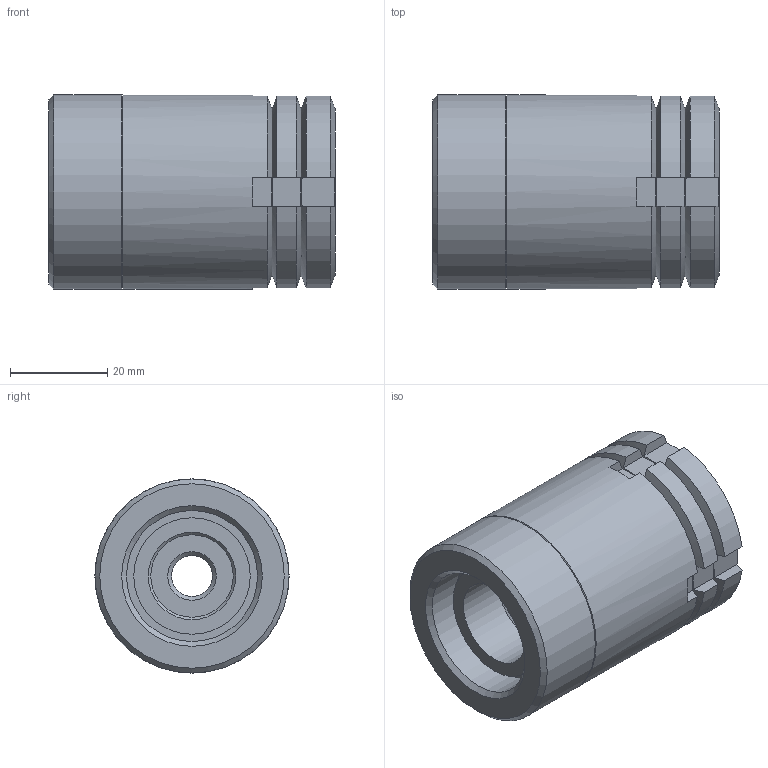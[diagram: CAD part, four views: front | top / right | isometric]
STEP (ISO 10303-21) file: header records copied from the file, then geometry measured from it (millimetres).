
FILE_DESCRIPTION( ( 'STEP AP203' ), '1' );
FILE_NAME( 'C:/Temp/Ganter_Step_05_03_2020/data/3_2/gn360/gn360_st/Levelling set GN 360-40-M10-69-B-ST (0-0).stp', '2020-03-13T05:41:52', ( 'License CC BY-ND 4.0' ), ( 'CADENAS' ), ' ', 'PARTsolutions', ' ' );
FILE_SCHEMA( ( 'CONFIG_CONTROL_DESIGN' ) );
Length unit declared in the file: millimetre
Products named in the file (5): Levelling set GN 360-40-M10-69-B-ST (0-0); _Levelling set GN 360-40-M10-69-B-ST (0-0)-1; _Levelling set GN 360-40-M10-69-B-ST (0-0)-2; _Levelling set GN 360-40-M10-69-B-ST (0-0)-4; _Levelling set GN 360-40-M10-69-B-ST (0-0)-3
Assembly tree (4 placements, depth 2):
  Levelling set GN 360-40-M10-69-B-ST (0-0)
    _Levelling set GN 360-40-M10-69-B-ST (0-0)-1
    _Levelling set GN 360-40-M10-69-B-ST (0-0)-2
    _Levelling set GN 360-40-M10-69-B-ST (0-0)-4
    _Levelling set GN 360-40-M10-69-B-ST (0-0)-3
Bounding box: 59 x 40 x 40 mm (x, y, z)
Volume: 58797.4 mm3; surface area: 24699.1 mm2
Topology: 4 solids, 4 shells, 95 faces, 229 edges, 148 vertices
Faces by surface type: plane 54, cylinder 22, cone 16, sphere 2, torus 1
Full cylindrical faces by diameter (mm): 8.376 x1, 17 x1, 18 x1, 20 x1, 23.5 x1, 24 x1, 26 x1, 26.376 x2, 27 x1, 28 x1, 28.5 x1, 40 x2
Entity records: 2864 total; most frequent: CARTESIAN_POINT 708, DIRECTION 396, ORIENTED_EDGE 376, EDGE_CURVE 188, AXIS2_PLACEMENT_3D 168, EDGE_LOOP 142, VERTEX_POINT 140, FACE_OUTER_BOUND 112
